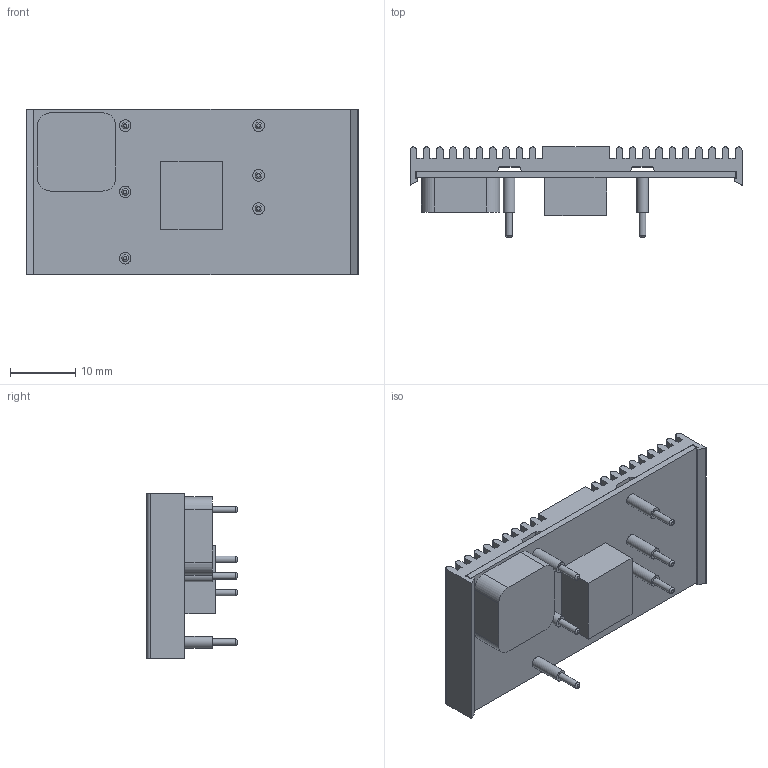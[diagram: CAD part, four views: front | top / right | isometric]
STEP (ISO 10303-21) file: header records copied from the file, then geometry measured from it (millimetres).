
FILE_DESCRIPTION((''),'2;1');
FILE_NAME('W:\mechanical\機構工程圖\3D圖檔\3D Outline-2020\已完成待審核\NSD10-D,S.stp','2020-07-02T18:43:54',('shirley'),(''),'Autodesk Inventor 2010','Autodesk Inventor 2010','');
FILE_SCHEMA(('AUTOMOTIVE_DESIGN { 1 0 10303 214 1 1 1 1 }'));
Length unit declared in the file: millimetre
Products named in the file (11): NSD10-D; HS017; 12; PIN; PIN_CPY; PIN_CPY1; PIN_CPY2; PIN_CPY3; PIN_CPY4; T1; PCB
Assembly tree (10 placements, depth 2):
  NSD10-D
    HS017
    12
    PIN
    PIN_CPY
    PIN_CPY1
    PIN_CPY2
    PIN_CPY3
    PIN_CPY4
    T1
    PCB
Bounding box: 50.9 x 13.81 x 25.4 mm (x, y, z)
Volume: 6465.2 mm3; surface area: 8799.3 mm2
Topology: 10 solids, 10 shells, 184 faces, 493 edges, 372 vertices
Faces by surface type: plane 126, cylinder 52, torus 6
Full cylindrical faces by diameter (mm): 1.02 x18, 1.78 x6
Entity records: 6084 total; most frequent: CARTESIAN_POINT 1001, DIRECTION 999, ORIENTED_EDGE 840, EDGE_CURVE 420, VECTOR 337, LINE 337, AXIS2_PLACEMENT_3D 331, VERTEX_POINT 298
